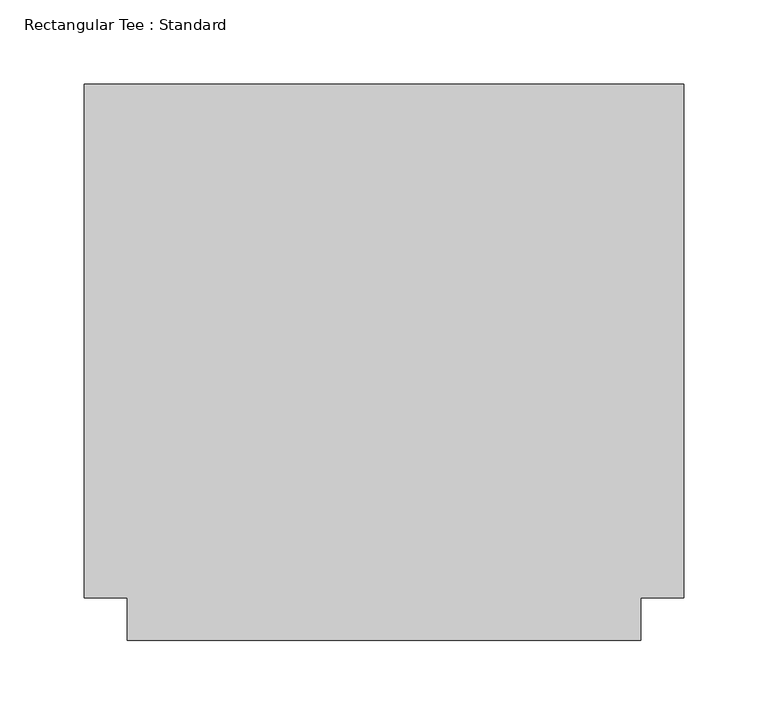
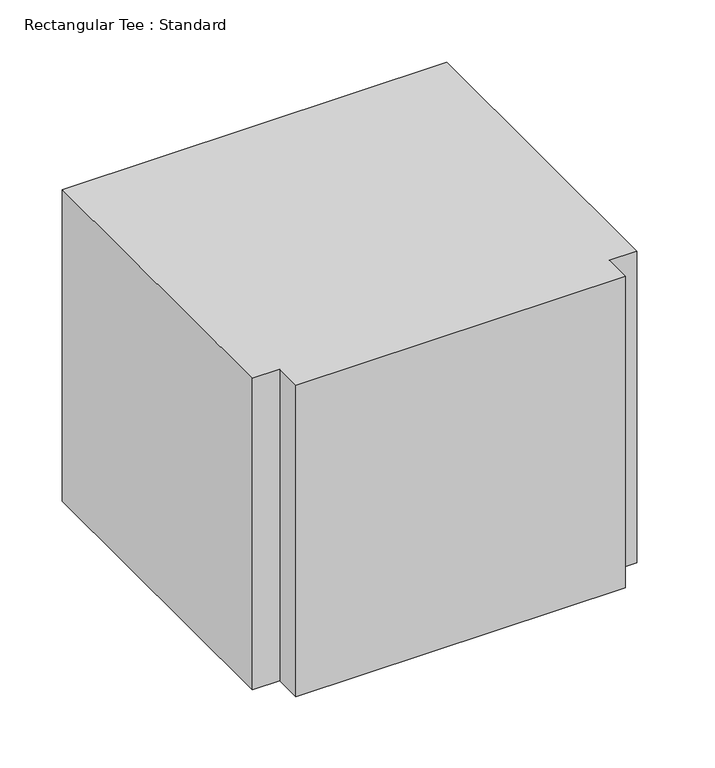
"""IFC4 building model written with IfcOpenShell, lengths in millimetres: duct fitting geometry, Rectangular Tee : Standard."""

import ifcopenshell
import ifcopenshell.guid

model = None  # the IFC model being written
_history = None  # IfcOwnerHistory: only IFC2X3 demands one
_inside = {}  # id of a spatial element -> (the spatial element, [elements in it])
_under = {}  # id of a project, library or spatial element -> (it, [spatial elements below it])
_declared = {}  # id of a project -> (the project, [libraries it declares])
_typed = {}  # id of a type object -> (the type object, [elements of that type])
_made_of = {}  # id of a material, layer set ... -> (it, [elements and type objects made of it])


def new_model(schema):
    """Start an empty IFC model of exactly this schema.

    Asked for "IFC4X3", IfcOpenShell would pick the latest addendum, in which some entities
    have other attributes; the version numbers below select the first issue.
    IFC2X3 requires an IfcOwnerHistory on every rooted entity: one is made here for all.
    """
    global model, _history
    if schema == "IFC4X3":
        model = ifcopenshell.file(schema_version=(4, 3, 0, 0))
    else:
        model = ifcopenshell.file(schema=schema)
    _inside.clear()
    _under.clear()
    _declared.clear()
    _typed.clear()
    _made_of.clear()
    _history = None
    if model.schema == "IFC2X3":
        org = make("IfcOrganization", Name="unknown")
        user = make(
            "IfcPersonAndOrganization",
            ThePerson=make("IfcPerson", FamilyName="unknown"),
            TheOrganization=org,
        )
        app = make(
            "IfcApplication",
            ApplicationDeveloper=org,
            Version="unknown",
            ApplicationFullName="unknown",
            ApplicationIdentifier="unknown",
        )
        _history = make(
            "IfcOwnerHistory",
            OwningUser=user,
            OwningApplication=app,
            ChangeAction="ADDED",
            CreationDate=0,
        )
    return model


def make(cls, **values):
    """One entity of the class cls with the attributes given. An attribute that is None is left unset."""
    return model.create_entity(
        cls, **{name: value for name, value in values.items() if value is not None}
    )


def rooted(cls, **values):
    """An entity with a GlobalId (a new one), such as an element, a storey or a relation."""
    return make(cls, GlobalId=ifcopenshell.guid.new(), OwnerHistory=_history, **values)


def si_unit(unit_type, name, prefix=None):
    """IfcSIUnit, for example si_unit("LENGTHUNIT", "METRE", prefix="MILLI")."""
    return make("IfcSIUnit", UnitType=unit_type, Prefix=prefix, Name=name)


def assignment(units):
    """IfcUnitAssignment: the units of a project."""
    return None if units is None else make("IfcUnitAssignment", Units=units)


def point(xyz):
    """IfcCartesianPoint."""
    return None if xyz is None else make("IfcCartesianPoint", Coordinates=xyz)


def direction(xyz):
    """IfcDirection."""
    return None if xyz is None else make("IfcDirection", DirectionRatios=xyz)


def frame(location, z_axis=None, x_axis=None):
    """IfcAxis2Placement3D, a coordinate frame: its origin and axes. An axis left out is left unset."""
    return make(
        "IfcAxis2Placement3D",
        Location=point(location),
        Axis=direction(z_axis),
        RefDirection=direction(x_axis),
    )


def origin():
    """The frame at (0, 0, 0) with its axes left unset."""
    return frame((0.0, 0.0, 0.0))


def place(relative_to, where):
    """IfcLocalPlacement: puts the frame where relative to a parent placement (None: the world)."""
    return make(
        "IfcLocalPlacement", PlacementRelTo=relative_to, RelativePlacement=where
    )


def context(
    kind, dimensions, precision=None, world=None, true_north=None, identifier=None
):
    """IfcGeometricRepresentationContext, for example the 3D "Model" context."""
    return make(
        "IfcGeometricRepresentationContext",
        ContextIdentifier=identifier,
        ContextType=kind,
        CoordinateSpaceDimension=dimensions,
        Precision=precision,
        WorldCoordinateSystem=world,
        TrueNorth=true_north,
    )


def project(units=None, contexts=None):
    """IfcProject with its units and contexts."""
    return rooted(
        "IfcProject",
        Name="project",
        RepresentationContexts=contexts,
        UnitsInContext=assignment(units),
    )


def spatial(cls, under=None, at=None, **own):
    """A site, building, storey or space (cls), placed at a placement, below another one or the project."""
    s = rooted(cls, ObjectPlacement=at, **own)
    if under is not None:
        _under.setdefault(under.id(), (under, []))[1].append(s)
    return s


def polyline(points):
    """IfcPolyline through the points."""
    return make("IfcPolyline", Points=[point(p) for p in points])


def outline(outer, holes=None, kind="AREA"):
    """IfcArbitraryClosedProfileDef: a profile drawn as a closed curve; with holes, ...WithVoids."""
    if holes is None:
        return make("IfcArbitraryClosedProfileDef", ProfileType=kind, OuterCurve=outer)
    return make(
        "IfcArbitraryProfileDefWithVoids",
        ProfileType=kind,
        OuterCurve=outer,
        InnerCurves=holes,
    )


def extrude(swept, where, along, depth):
    """IfcExtrudedAreaSolid: the profile swept, set in the frame where, extruded along a direction by depth."""
    return make(
        "IfcExtrudedAreaSolid",
        SweptArea=swept,
        Position=where,
        ExtrudedDirection=direction(along),
        Depth=depth,
    )


def shape(context_of_items, identifier, shape_type, items):
    """IfcShapeRepresentation: the items that make up one representation, for example the "Body"."""
    return make(
        "IfcShapeRepresentation",
        ContextOfItems=context_of_items,
        RepresentationIdentifier=identifier,
        RepresentationType=shape_type,
        Items=items,
    )


def source(mapping_origin, context_of_items, identifier, shape_type, items):
    """IfcRepresentationMap: a shape defined once, which mapped items show again and again."""
    return make(
        "IfcRepresentationMap",
        MappingOrigin=mapping_origin,
        MappedRepresentation=shape(context_of_items, identifier, shape_type, items),
    )


def transform(
    local_origin,
    x_axis=None,
    y_axis=None,
    z_axis=None,
    scale=None,
    scale2=None,
    scale3=None,
    uniform=True,
):
    """IfcCartesianTransformationOperator3D, or its non-uniform kind. x_axis, y_axis, z_axis: its Axis1, 2, 3."""
    if uniform:
        return make(
            "IfcCartesianTransformationOperator3D",
            Axis1=direction(x_axis),
            Axis2=direction(y_axis),
            LocalOrigin=point(local_origin),
            Scale=scale,
            Axis3=direction(z_axis),
        )
    return make(
        "IfcCartesianTransformationOperator3DnonUniform",
        Axis1=direction(x_axis),
        Axis2=direction(y_axis),
        LocalOrigin=point(local_origin),
        Scale=scale,
        Axis3=direction(z_axis),
        Scale2=scale2,
        Scale3=scale3,
    )


def mapped(mapping_source, mapping_target):
    """IfcMappedItem: shows the shape of a source again, moved by a transform."""
    return make(
        "IfcMappedItem", MappingSource=mapping_source, MappingTarget=mapping_target
    )


def made_of(thing, what):
    """Note that an element or type object is made of a material, layer set ...; save() writes the relation."""
    if what is not None:
        _made_of.setdefault(what.id(), (what, []))[1].append(thing)
    return thing


def element(
    cls,
    number,
    at=None,
    inside=None,
    cuts=None,
    type_object=None,
    material=None,
    context=None,
    identifier="Body",
    shape_type=None,
    held_by="IfcProductDefinitionShape",
    body=None,
    shapes=None,
    **own,
):
    """One element of the class cls, such as IfcWall. Its Tag is "e" and its number.

    at: its placement. inside: the storey or other place that contains it. cuts: it is an
    opening in that element (IfcRelVoidsElement). A single representation is given by context,
    identifier, shape_type and body (its items); several are given by shapes. held_by: the class
    of the entity that holds the representations. save() writes the other relations.
    """
    e = rooted(cls, Tag="e%d" % number, ObjectPlacement=at, **own)
    if body is not None:
        shapes = [shape(context, identifier, shape_type, body)]
    if shapes is not None:
        e.Representation = make(held_by, Representations=shapes)
    if inside is not None:
        _inside.setdefault(inside.id(), (inside, []))[1].append(e)
    if cuts is not None:
        rooted(
            "IfcRelVoidsElement", RelatingBuildingElement=cuts, RelatedOpeningElement=e
        )
    if type_object is not None:
        _typed.setdefault(type_object.id(), (type_object, []))[1].append(e)
    return made_of(e, material)


def aggregate(whole, parts):
    """IfcRelAggregates: a whole, such as a stair, and the parts it consists of."""
    return rooted("IfcRelAggregates", RelatingObject=whole, RelatedObjects=parts)


def save(model, path):
    """Write the relations noted so far, then the file.

    IfcRelAggregates (storeys below a building ...), IfcRelContainedInSpatialStructure (elements
    in a storey), IfcRelDefinesByType, IfcRelAssociatesMaterial and IfcRelDeclares: one each for
    every whole, place, type object, material and project.
    """
    for whole, parts in _under.values():
        aggregate(whole, parts)
    for where, things in _inside.values():
        rooted(
            "IfcRelContainedInSpatialStructure",
            RelatedElements=things,
            RelatingStructure=where,
        )
    for kind, things in _typed.values():
        rooted("IfcRelDefinesByType", RelatedObjects=things, RelatingType=kind)
    for what, things in _made_of.values():
        rooted("IfcRelAssociatesMaterial", RelatedObjects=things, RelatingMaterial=what)
    for by, libraries in _declared.values():
        rooted("IfcRelDeclares", RelatingContext=by, RelatedDefinitions=libraries)
    model.write(path)


def rectangular_tee_standard_578867ac(model_context):
    return source(origin(), model_context, "Body", "SweptSolid", [
        extrude(outline(polyline([(-177.8, -152.4), (-177.8, 152.4), (177.8, 152.4), (177.8, -152.4), (152.4, -152.4), (152.4, -177.8), (-152.4, -177.8), (-152.4, -152.4), (-177.8, -152.4)])), frame((0.0, 0.0, -152.4), z_axis=(0.0, 0.0, 1.0), x_axis=(1.0, 0.0, 0.0)), (0.0, 0.0, 1.0), 304.8),
    ])


if __name__ == "__main__":
    model = new_model("IFC4")
    model_context = context("Model", 3, world=origin())
    ifc_project = project(units=[si_unit("LENGTHUNIT", "METRE", prefix="MILLI")], contexts=[model_context])
    site = spatial("IfcSite", under=ifc_project)
    building = spatial("IfcBuilding", under=site)
    placement = place(None, origin())
    rectangular_tee_standard_shape = rectangular_tee_standard_578867ac(model_context)
    element("IfcDuctFitting", 1, ObjectType="Rectangular Tee : Standard", at=placement, inside=building, context=model_context, shape_type="MappedRepresentation", body=[
        mapped(rectangular_tee_standard_shape, transform((0.0, 0.0, 0.0), x_axis=(1.0, 0.0, 0.0), y_axis=(0.0, 1.0, 0.0), z_axis=(0.0, 0.0, 1.0))),
    ])
    save(model, "model.ifc")
